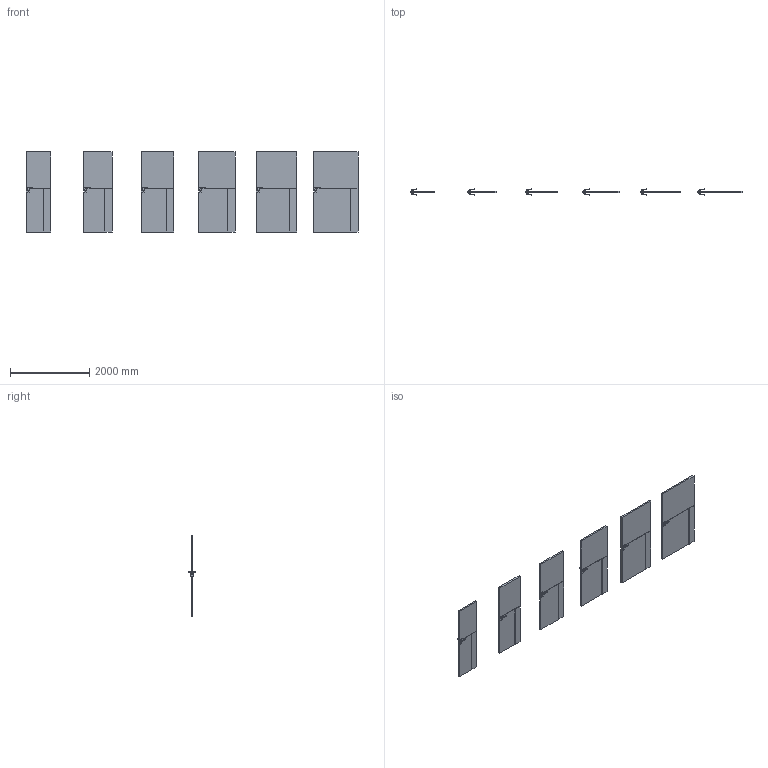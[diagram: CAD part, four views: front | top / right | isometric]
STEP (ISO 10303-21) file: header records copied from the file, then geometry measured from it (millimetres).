
FILE_DESCRIPTION(/* description */ (''),/* implementation_level */ '2;1');
FILE_NAME(/* name */ '049597_B_1-Skrzydło LINE model L.1_ polska norma _PN__ bezprzylgowe..stp',/* time_stamp */ '2024-03-19T14:04:53+01:00',/* author */ (''),/* organization */ (''),/* preprocessor_version */ 'ST-DEVELOPER v16',/* originating_system */ 'SIEMENS PLM Software NX 11.0',/* authorisation */ '');
FILE_SCHEMA (('AUTOMOTIVE_DESIGN { 1 0 10303 214 3 1 1 1 }'));
Length unit declared in the file: millimetre
Products named in the file (1): bkni0750A893la5o
Bounding box: 8368 x 153.27 x 2017 mm (x, y, z)
Volume: 413467946.7 mm3; surface area: 23073969 mm2
Topology: 54 solids, 54 shells, 1284 faces, 3000 edges, 1704 vertices
Faces by surface type: plane 660, cylinder 264, bspline 192, sphere 168
Entity records: 41849 total; most frequent: CARTESIAN_POINT 14245, ORIENTED_EDGE 5664, DIRECTION 5378, EDGE_CURVE 2832, AXIS2_PLACEMENT_3D 1813, LINE 1752, VECTOR 1752, VERTEX_POINT 1704
